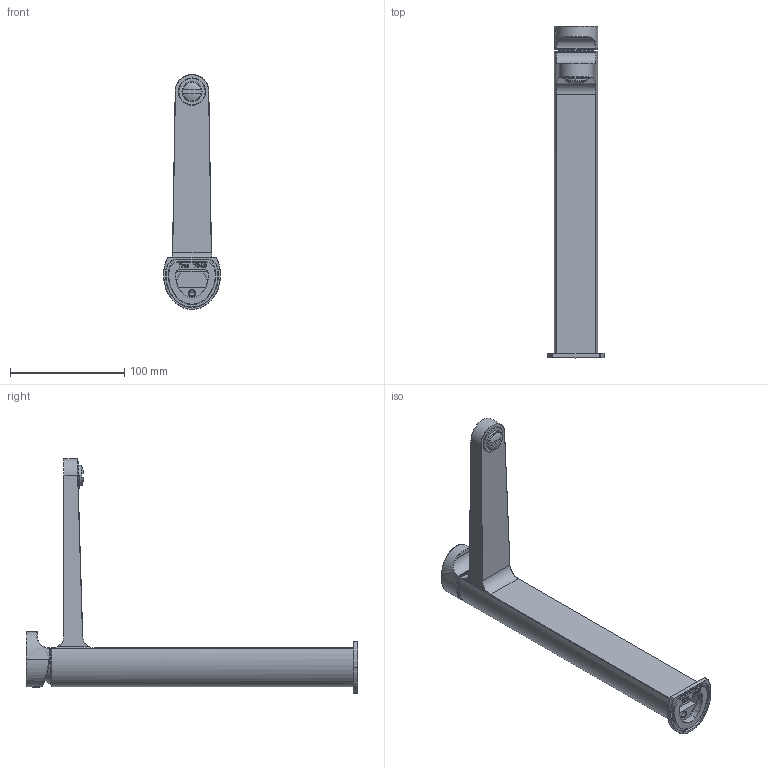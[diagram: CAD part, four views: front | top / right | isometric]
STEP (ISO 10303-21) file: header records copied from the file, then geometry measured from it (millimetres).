
FILE_DESCRIPTION((''),'2;1');
FILE_NAME('F3931_H','2012-10-08T',('ivanv'),(''),'PRO/ENGINEER BY PARAMETRIC TECHNOLOGY CORPORATION, 2011370','PRO/ENGINEER BY PARAMETRIC TECHNOLOGY CORPORATION, 2011370','');
FILE_SCHEMA(('CONFIG_CONTROL_DESIGN'));
Length unit declared in the file: millimetre
Products named in the file (1): F3931_H
Bounding box: 49.96 x 291 x 206 mm (x, y, z)
Volume: 154606.1 mm3; surface area: 102186.1 mm2
Topology: 1 solids, 1 shells, 815 faces, 2099 edges, 1320 vertices
Faces by surface type: plane 387, cylinder 150, torus 104, extrusion 84, bspline 59, cone 23, sphere 8
Entity records: 31613 total; most frequent: CARTESIAN_POINT 12365, ORIENTED_EDGE 4190, DIRECTION 3650, EDGE_CURVE 2095, VERTEX_POINT 1320, VECTOR 1292, LINE 1208, AXIS2_PLACEMENT_3D 1179
